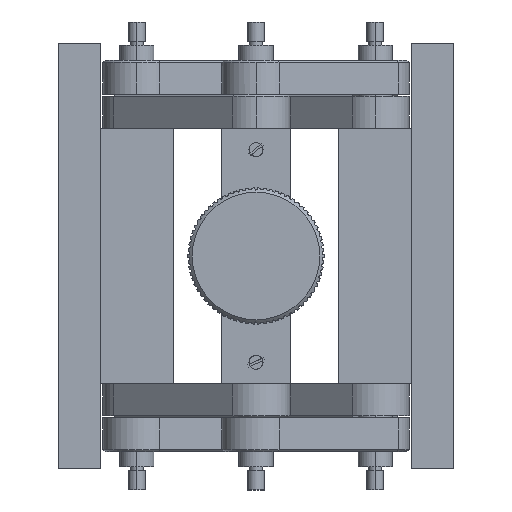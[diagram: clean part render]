
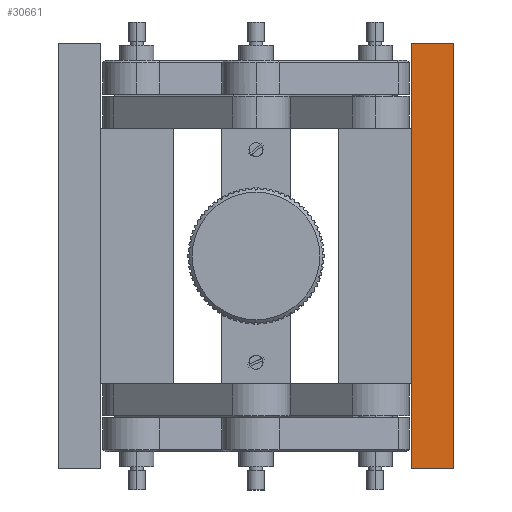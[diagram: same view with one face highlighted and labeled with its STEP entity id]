
A CAD part, left-side view. The second image highlights one B-rep face of the part: STEP entity #30661.
In plain terms, the highlighted planar face has unit normal (1, 0, 0).
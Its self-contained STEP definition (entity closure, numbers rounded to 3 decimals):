
#843 = DIRECTION ( 'NONE',  ( -1., 0., 0. ) ) ;
#5406 = CARTESIAN_POINT ( 'NONE',  ( -71.371, -72.362, 24.45 ) ) ;
#6828 = VECTOR ( 'NONE', #26994, 1000. ) ;
#7711 = LINE ( 'NONE', #50042, #53965 ) ;
#14393 = AXIS2_PLACEMENT_3D ( 'NONE', #29001, #843, #34533 ) ;
#22214 = ORIENTED_EDGE ( 'NONE', *, *, #28672, .F. ) ;
#22838 = CARTESIAN_POINT ( 'NONE',  ( -71.371, -72.362, 124.45 ) ) ;
#24261 = PLANE ( 'NONE',  #14393 ) ;
#24514 = LINE ( 'NONE', #5406, #48768 ) ;
#26994 = DIRECTION ( 'NONE',  ( 0., 0., -1. ) ) ;
#27520 = EDGE_CURVE ( 'NONE', #47626, #56855, #24514, .T. ) ;
#27652 = ORIENTED_EDGE ( 'NONE', *, *, #54820, .F. ) ;
#28672 = EDGE_CURVE ( 'NONE', #56855, #36052, #35500, .T. ) ;
#29001 = CARTESIAN_POINT ( 'NONE',  ( -71.371, -72.362, -59.512 ) ) ;
#30661 = ADVANCED_FACE ( 'NONE', ( #55129 ), #24261, .F. ) ;
#32043 = ORIENTED_EDGE ( 'NONE', *, *, #27520, .F. ) ;
#33164 = CARTESIAN_POINT ( 'NONE',  ( -71.371, -82.362, -59.512 ) ) ;
#34533 = DIRECTION ( 'NONE',  ( 0., 0., 1. ) ) ;
#35500 = LINE ( 'NONE', #33164, #55984 ) ;
#35896 = DIRECTION ( 'NONE',  ( 0., 1., 0. ) ) ;
#36052 = VERTEX_POINT ( 'NONE', #58173 ) ;
#36230 = CARTESIAN_POINT ( 'NONE',  ( -71.371, -72.362, -59.512 ) ) ;
#37388 = EDGE_CURVE ( 'NONE', #36052, #51842, #7711, .T. ) ;
#39996 = EDGE_LOOP ( 'NONE', ( #27652, #40166, #22214, #32043 ) ) ;
#40166 = ORIENTED_EDGE ( 'NONE', *, *, #37388, .F. ) ;
#42166 = DIRECTION ( 'NONE',  ( 0., 0., 1. ) ) ;
#47626 = VERTEX_POINT ( 'NONE', #55144 ) ;
#47882 = DIRECTION ( 'NONE',  ( 0., -1., 0. ) ) ;
#48768 = VECTOR ( 'NONE', #47882, 1000. ) ;
#50042 = CARTESIAN_POINT ( 'NONE',  ( -71.371, -72.362, 124.45 ) ) ;
#51741 = CARTESIAN_POINT ( 'NONE',  ( -71.371, -82.362, 24.45 ) ) ;
#51842 = VERTEX_POINT ( 'NONE', #22838 ) ;
#53965 = VECTOR ( 'NONE', #35896, 1000. ) ;
#54820 = EDGE_CURVE ( 'NONE', #51842, #47626, #59690, .T. ) ;
#55129 = FACE_OUTER_BOUND ( 'NONE', #39996, .T. ) ;
#55144 = CARTESIAN_POINT ( 'NONE',  ( -71.371, -72.362, 24.45 ) ) ;
#55984 = VECTOR ( 'NONE', #42166, 1000. ) ;
#56855 = VERTEX_POINT ( 'NONE', #51741 ) ;
#58173 = CARTESIAN_POINT ( 'NONE',  ( -71.371, -82.362, 124.45 ) ) ;
#59690 = LINE ( 'NONE', #36230, #6828 ) ;
